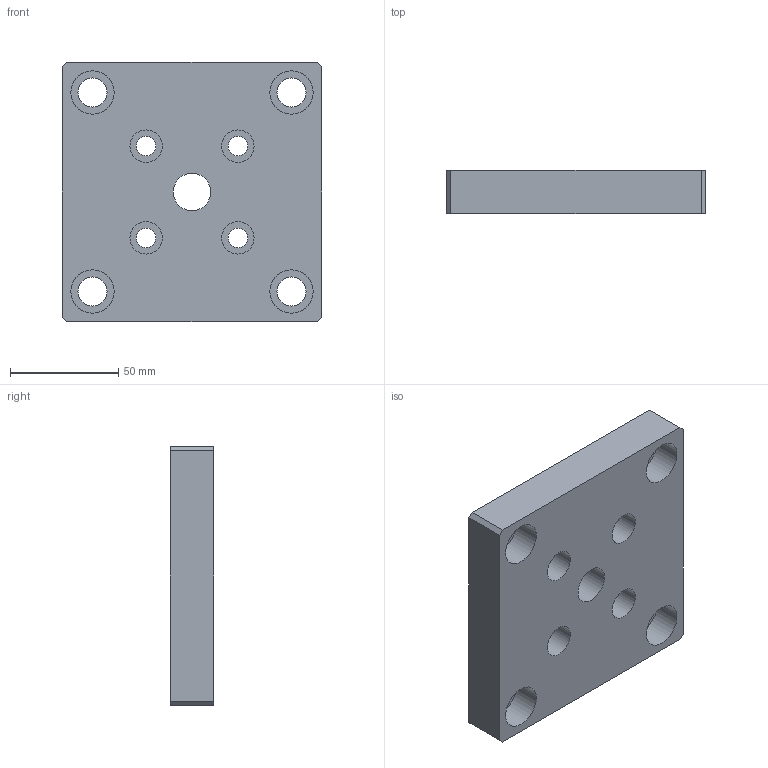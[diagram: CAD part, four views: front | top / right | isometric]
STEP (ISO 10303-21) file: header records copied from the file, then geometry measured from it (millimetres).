
FILE_DESCRIPTION(/* description */ (''),/* implementation_level */ '2;1');
FILE_NAME(/* name */ 'C:\Users\Jefferson\Desktop\Biblioteca Pro Nitro 2024\Flanges\PNB-56-XXX\PNB-56-095.stp',/* time_stamp */ '2024-01-29T14:11:47-03:00',/* author */ ('Jefferson'),/* organization */ (''),/* preprocessor_version */ 'ST-DEVELOPER v18.1',/* originating_system */ 'Autodesk Inventor 2021',/* authorisation */ '');
FILE_SCHEMA (('AUTOMOTIVE_DESIGN { 1 0 10303 214 3 1 1 }'));
Length unit declared in the file: millimetre
Products named in the file (1): PNB-56-095
Bounding box: 120 x 20 x 120 mm (x, y, z)
Volume: 251365.9 mm3; surface area: 45050.5 mm2
Topology: 1 solids, 1 shells, 203 faces, 548 edges, 371 vertices
Faces by surface type: bspline 98, plane 88, cylinder 17
Full cylindrical faces by diameter (mm): 9 x4, 13.5 x4, 15 x4, 17.294 x1, 20 x4
Entity records: 6974 total; most frequent: CARTESIAN_POINT 2397, ORIENTED_EDGE 1096, DIRECTION 615, EDGE_CURVE 548, VERTEX_POINT 371, LINE 301, VECTOR 301, EDGE_LOOP 245
